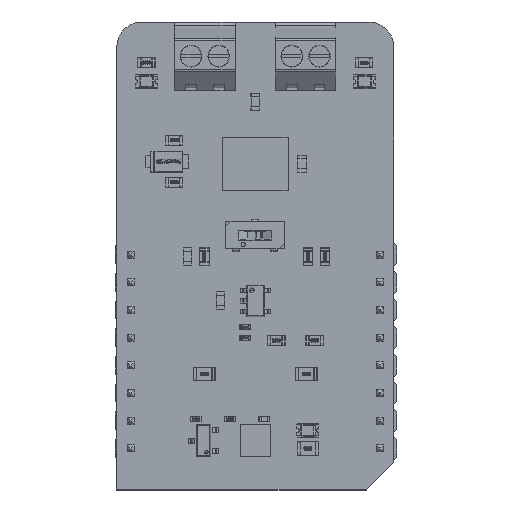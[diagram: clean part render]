
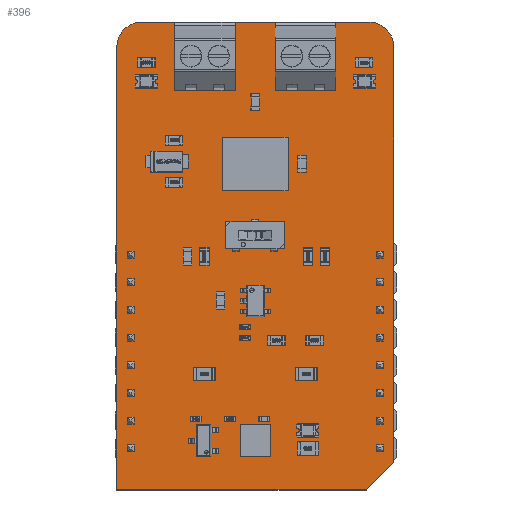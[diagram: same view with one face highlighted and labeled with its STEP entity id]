
A CAD part, top view. The second image highlights one B-rep face of the part: STEP entity #396.
In plain terms, the highlighted planar face has unit normal (0, 0, 1).
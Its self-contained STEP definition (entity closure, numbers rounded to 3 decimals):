
#167 = VERTEX_POINT('',#168);
#168 = CARTESIAN_POINT('',(-1.27,-3.81,0.));
#174 = EDGE_CURVE('',#167,#175,#177,.T.);
#175 = VERTEX_POINT('',#176);
#176 = CARTESIAN_POINT('',(-1.27,36.83,0.));
#177 = LINE('',#178,#179);
#178 = CARTESIAN_POINT('',(-1.27,-3.81,0.));
#179 = VECTOR('',#180,1.);
#180 = DIRECTION('',(0.,1.,0.));
#205 = EDGE_CURVE('',#175,#206,#208,.T.);
#206 = VERTEX_POINT('',#207);
#207 = CARTESIAN_POINT('',(1.016,39.116,0.));
#208 = CIRCLE('',#209,2.288);
#209 = AXIS2_PLACEMENT_3D('',#210,#211,#212);
#210 = CARTESIAN_POINT('',(1.018,36.828,0.));
#211 = DIRECTION('',(0.,0.,-1.));
#212 = DIRECTION('',(-1.,0.001,0.));
#238 = EDGE_CURVE('',#206,#239,#241,.T.);
#239 = VERTEX_POINT('',#240);
#240 = CARTESIAN_POINT('',(21.844,39.116,0.));
#241 = LINE('',#242,#243);
#242 = CARTESIAN_POINT('',(1.016,39.116,0.));
#243 = VECTOR('',#244,1.);
#244 = DIRECTION('',(1.,0.,0.));
#269 = EDGE_CURVE('',#239,#270,#272,.T.);
#270 = VERTEX_POINT('',#271);
#271 = CARTESIAN_POINT('',(24.13,36.83,0.));
#272 = CIRCLE('',#273,2.288);
#273 = AXIS2_PLACEMENT_3D('',#274,#275,#276);
#274 = CARTESIAN_POINT('',(21.842,36.828,0.));
#275 = DIRECTION('',(0.,0.,-1.));
#276 = DIRECTION('',(0.001,1.,0.));
#302 = EDGE_CURVE('',#270,#303,#305,.T.);
#303 = VERTEX_POINT('',#304);
#304 = CARTESIAN_POINT('',(24.13,-1.27,0.));
#305 = LINE('',#306,#307);
#306 = CARTESIAN_POINT('',(24.13,36.83,0.));
#307 = VECTOR('',#308,1.);
#308 = DIRECTION('',(0.,-1.,0.));
#333 = EDGE_CURVE('',#303,#334,#336,.T.);
#334 = VERTEX_POINT('',#335);
#335 = CARTESIAN_POINT('',(21.59,-3.81,0.));
#336 = LINE('',#337,#338);
#337 = CARTESIAN_POINT('',(24.13,-1.27,0.));
#338 = VECTOR('',#339,1.);
#339 = DIRECTION('',(-0.707,-0.707,0.));
#364 = EDGE_CURVE('',#334,#167,#365,.T.);
#365 = LINE('',#366,#367);
#366 = CARTESIAN_POINT('',(21.59,-3.81,0.));
#367 = VECTOR('',#368,1.);
#368 = DIRECTION('',(-1.,0.,0.));
#396 = ADVANCED_FACE('',(#397),#406,.T.);
#397 = FACE_BOUND('',#398,.F.);
#398 = EDGE_LOOP('',(#399,#400,#401,#402,#403,#404,#405));
#399 = ORIENTED_EDGE('',*,*,#174,.T.);
#400 = ORIENTED_EDGE('',*,*,#205,.T.);
#401 = ORIENTED_EDGE('',*,*,#238,.T.);
#402 = ORIENTED_EDGE('',*,*,#269,.T.);
#403 = ORIENTED_EDGE('',*,*,#302,.T.);
#404 = ORIENTED_EDGE('',*,*,#333,.T.);
#405 = ORIENTED_EDGE('',*,*,#364,.T.);
#406 = PLANE('',#407);
#407 = AXIS2_PLACEMENT_3D('',#408,#409,#410);
#408 = CARTESIAN_POINT('',(-1.27,-3.81,0.));
#409 = DIRECTION('',(0.,0.,1.));
#410 = DIRECTION('',(1.,0.,0.));
